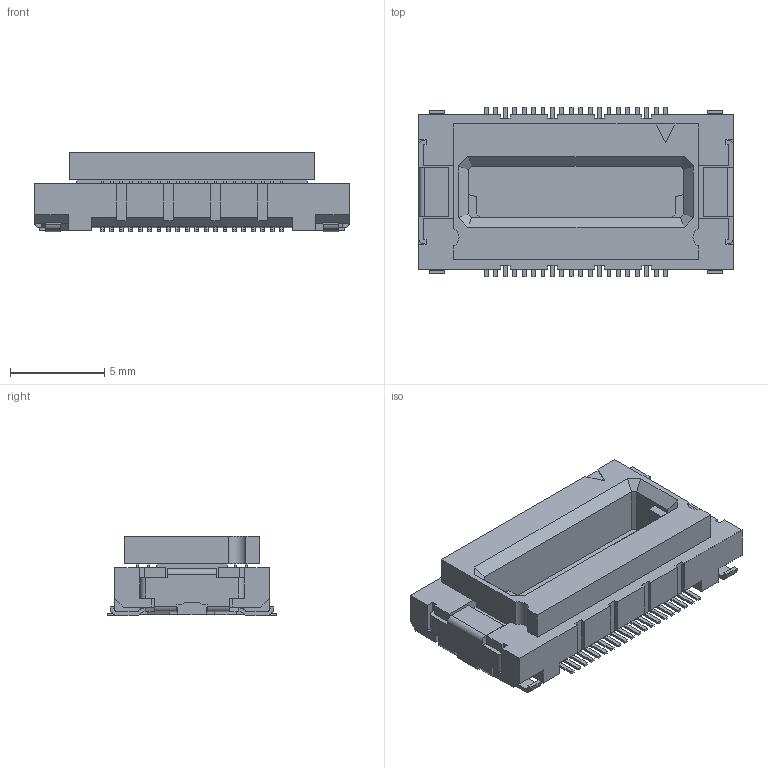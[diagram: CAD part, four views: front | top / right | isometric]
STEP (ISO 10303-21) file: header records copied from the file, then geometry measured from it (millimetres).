
FILE_DESCRIPTION(('Creo Elements/Direct Modeling STEP Export'),'2;1');
FILE_NAME('P3A287_DY00-040S.stp','2017-08-10T14:20:06',(''),(''),'Creo Elements/Direct Modeling STEP processor for AP214 (Solid Model)','Creo Elements/Direct Modeling 19.0F 14-Feb-2017 (C) Parametric Technology GmbH','');
FILE_SCHEMA(('AUTOMOTIVE_DESIGN { 1 0 10303 214 1 1 1 1 }'));
Length unit declared in the file: millimetre
Products named in the file (2): DY00-040S
Assembly tree (1 placements, depth 2):
  DY00-040S
    DY00-040S
Bounding box: 16.7 x 9 x 4.2 mm (x, y, z)
Volume: 352.2 mm3; surface area: 755.7 mm2
Topology: 1 solids, 1 shells, 1381 faces, 3879 edges, 2582 vertices
Faces by surface type: plane 1176, cylinder 205
Entity records: 44050 total; most frequent: CARTESIAN_POINT 7782, ORIENTED_EDGE 7758, DIRECTION 6979, EDGE_CURVE 3879, VECTOR 3421, LINE 3421, VERTEX_POINT 2582, AXIS2_PLACEMENT_3D 1779
